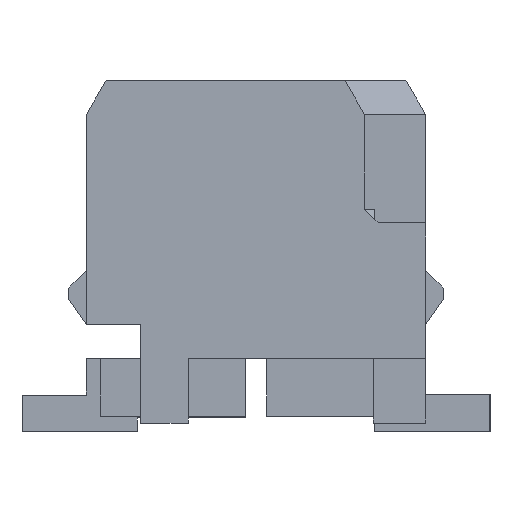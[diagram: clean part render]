
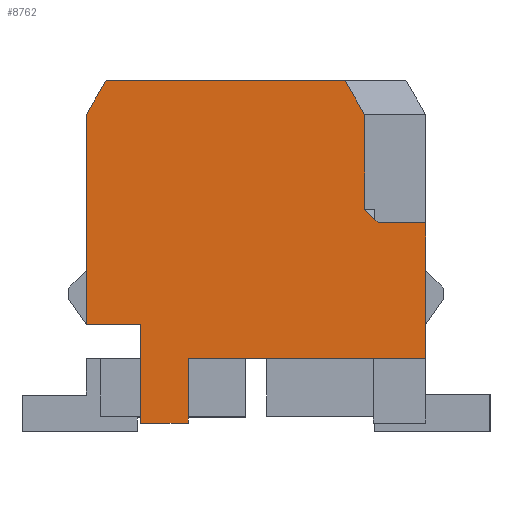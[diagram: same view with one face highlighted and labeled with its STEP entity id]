
A CAD part, left-side view. The second image highlights one B-rep face of the part: STEP entity #8762.
In plain terms, the highlighted planar face has unit normal (-1, 0, 0).
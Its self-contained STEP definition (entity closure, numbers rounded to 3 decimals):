
#1=DIRECTION('',(0.,-1.,0.));
#2=VECTOR('',#1,0.7);
#3=CARTESIAN_POINT('',(-14.59,-1.8,2.));
#4=LINE('',#3,#2);
#5=DIRECTION('',(0.,0.,-1.));
#6=VECTOR('',#5,2.);
#7=CARTESIAN_POINT('',(-14.59,-2.5,2.));
#8=LINE('',#7,#6);
#9=DIRECTION('',(0.,1.,0.));
#10=VECTOR('',#9,3.5);
#11=CARTESIAN_POINT('',(-14.59,-2.5,0.));
#12=LINE('',#11,#10);
#13=DIRECTION('',(0.,0.,-1.));
#14=VECTOR('',#13,0.95);
#15=CARTESIAN_POINT('',(-14.59,1.,0.));
#16=LINE('',#15,#14);
#17=DIRECTION('',(0.,0.,1.));
#18=VECTOR('',#17,1.45);
#19=CARTESIAN_POINT('',(-14.59,1.7,-0.95));
#20=LINE('',#19,#18);
#21=DIRECTION('',(0.,1.,0.));
#22=VECTOR('',#21,0.8);
#23=CARTESIAN_POINT('',(-14.59,1.7,0.5));
#24=LINE('',#23,#22);
#25=DIRECTION('',(0.,0.,1.));
#26=VECTOR('',#25,3.1);
#27=CARTESIAN_POINT('',(-14.59,2.5,0.5));
#28=LINE('',#27,#26);
#29=DIRECTION('',(0.,0.5,-0.866));
#30=VECTOR('',#29,0.577);
#31=CARTESIAN_POINT('',(-14.59,2.211,4.1));
#32=LINE('',#31,#30);
#33=DIRECTION('',(0.,0.5,0.866));
#34=VECTOR('',#33,0.577);
#35=CARTESIAN_POINT('',(-14.59,-1.6,3.6));
#36=LINE('',#35,#34);
#41=DIRECTION('',(0.,0.,1.));
#42=VECTOR('',#41,1.4);
#43=CARTESIAN_POINT('',(-14.59,-1.6,2.2));
#44=LINE('',#43,#42);
#57=DIRECTION('',(0.,0.707,0.707));
#58=VECTOR('',#57,0.283);
#59=CARTESIAN_POINT('',(-14.59,-1.8,2.));
#60=LINE('',#59,#58);
#1709=DIRECTION('',(0.,-1.,0.));
#1710=VECTOR('',#1709,3.523);
#1711=CARTESIAN_POINT('',(-14.59,2.211,4.1));
#1712=LINE('',#1711,#1710);
#4797=DIRECTION('',(0.,1.,0.));
#4798=VECTOR('',#4797,0.7);
#4799=CARTESIAN_POINT('',(-14.59,1.,-0.95));
#4800=LINE('',#4799,#4798);
#6573=CARTESIAN_POINT('',(-14.59,-2.5,2.));
#6574=CARTESIAN_POINT('',(-14.59,-2.5,0.));
#6575=VERTEX_POINT('',#6573);
#6576=VERTEX_POINT('',#6574);
#6577=CARTESIAN_POINT('',(-14.59,1.7,0.5));
#6578=CARTESIAN_POINT('',(-14.59,2.5,0.5));
#6579=VERTEX_POINT('',#6577);
#6580=VERTEX_POINT('',#6578);
#6911=CARTESIAN_POINT('',(-14.59,1.7,-0.95));
#6913=VERTEX_POINT('',#6911);
#6917=CARTESIAN_POINT('',(-14.59,1.,-0.95));
#6918=VERTEX_POINT('',#6917);
#6931=CARTESIAN_POINT('',(-14.59,1.,0.));
#6932=VERTEX_POINT('',#6931);
#7249=CARTESIAN_POINT('',(-14.59,2.211,4.1));
#7250=CARTESIAN_POINT('',(-14.59,2.5,3.6));
#7251=VERTEX_POINT('',#7249);
#7252=VERTEX_POINT('',#7250);
#7261=CARTESIAN_POINT('',(-14.59,-1.6,3.6));
#7262=CARTESIAN_POINT('',(-14.59,-1.311,4.1));
#7263=VERTEX_POINT('',#7261);
#7264=VERTEX_POINT('',#7262);
#7311=CARTESIAN_POINT('',(-14.59,-1.6,2.2));
#7312=VERTEX_POINT('',#7311);
#7313=CARTESIAN_POINT('',(-14.59,-1.8,2.));
#7315=VERTEX_POINT('',#7313);
#8729=CARTESIAN_POINT('',(-14.59,0.,0.));
#8730=DIRECTION('',(1.,0.,0.));
#8731=DIRECTION('',(0.,1.,0.));
#8732=AXIS2_PLACEMENT_3D('',#8729,#8730,#8731);
#8733=PLANE('',#8732);
#8735=ORIENTED_EDGE('',*,*,#8734,.F.);
#8737=ORIENTED_EDGE('',*,*,#8736,.F.);
#8739=ORIENTED_EDGE('',*,*,#8738,.T.);
#8741=ORIENTED_EDGE('',*,*,#8740,.T.);
#8743=ORIENTED_EDGE('',*,*,#8742,.T.);
#8745=ORIENTED_EDGE('',*,*,#8744,.T.);
#8747=ORIENTED_EDGE('',*,*,#8746,.T.);
#8749=ORIENTED_EDGE('',*,*,#8748,.T.);
#8751=ORIENTED_EDGE('',*,*,#8750,.T.);
#8753=ORIENTED_EDGE('',*,*,#8752,.T.);
#8755=ORIENTED_EDGE('',*,*,#8754,.F.);
#8757=ORIENTED_EDGE('',*,*,#8756,.T.);
#8759=ORIENTED_EDGE('',*,*,#8758,.F.);
#8760=EDGE_LOOP('',(#8735,#8737,#8739,#8741,#8743,#8745,#8747,#8749,#8751,#8753,
#8755,#8757,#8759));
#8761=FACE_OUTER_BOUND('',#8760,.F.);
#8762=ADVANCED_FACE('',(#8761),#8733,.F.);
#8734=EDGE_CURVE('',#7312,#7263,#44,.T.);
#8736=EDGE_CURVE('',#7315,#7312,#60,.T.);
#8738=EDGE_CURVE('',#7315,#6575,#4,.T.);
#8740=EDGE_CURVE('',#6575,#6576,#8,.T.);
#8742=EDGE_CURVE('',#6576,#6932,#12,.T.);
#8744=EDGE_CURVE('',#6932,#6918,#16,.T.);
#8746=EDGE_CURVE('',#6918,#6913,#4800,.T.);
#8748=EDGE_CURVE('',#6913,#6579,#20,.T.);
#8750=EDGE_CURVE('',#6579,#6580,#24,.T.);
#8752=EDGE_CURVE('',#6580,#7252,#28,.T.);
#8754=EDGE_CURVE('',#7251,#7252,#32,.T.);
#8756=EDGE_CURVE('',#7251,#7264,#1712,.T.);
#8758=EDGE_CURVE('',#7263,#7264,#36,.T.);
